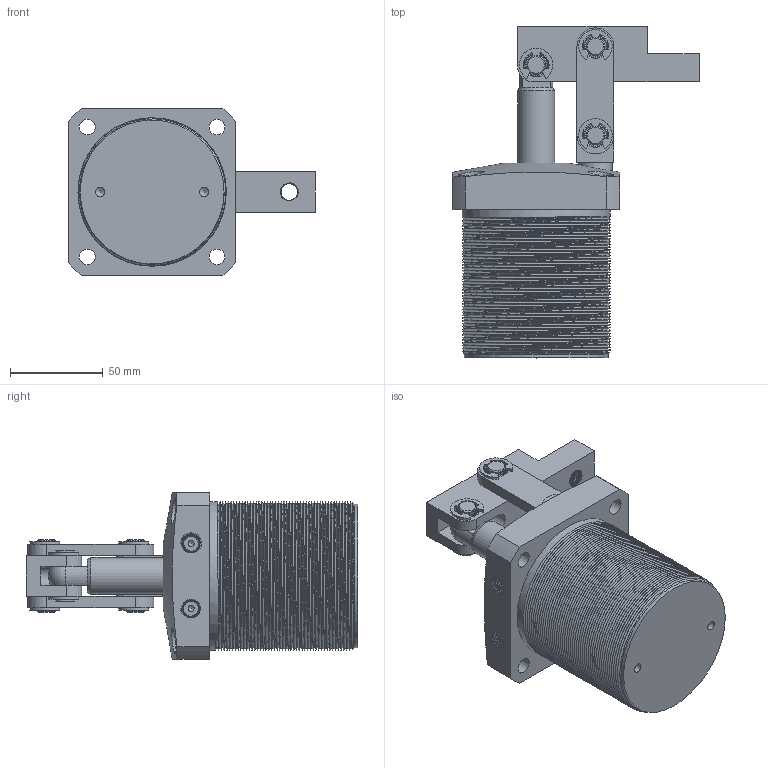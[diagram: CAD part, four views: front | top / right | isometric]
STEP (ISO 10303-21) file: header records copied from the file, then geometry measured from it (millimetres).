
FILE_DESCRIPTION(/* description */ (''),/* implementation_level */ '2;1');
FILE_NAME(/* name */ 'E:\SERWER_ZAPAS\MODELE brakujace\PNEUMATIC\CPLCU(STEP)\cplcu-63_asm\CPLCU-63_ZAMKNIETY.stp',/* time_stamp */ '2019-02-08T14:41:51+01:00',/* author */ ('Admin'),/* organization */ (''),/* preprocessor_version */ 'ST-DEVELOPER v17.2',/* originating_system */ 'Autodesk Inventor 2019',/* authorisation */ '');
FILE_SCHEMA (('AUTOMOTIVE_DESIGN { 1 0 10303 214 3 1 1 }'));
Products named in the file (10): CPLCU-63_ZAMKNIETY; CPLCU-63-07; CPLCU-63-06; CPLCU-63-05; CPLCU-63-01; CPLCU-63-02; CPLCU-63-08; CPLCU-63-03; CPLCU-63-04; CPLCU-50-08
Assembly tree (21 placements, depth 2):
  CPLCU-63_ZAMKNIETY
    CPLCU-63-07
    CPLCU-63-06
    CPLCU-63-05
    CPLCU-63-01
    CPLCU-63-02  x2
    CPLCU-63-08  x6
    CPLCU-63-03
    CPLCU-63-04  x2
    CPLCU-50-08  x6
Bounding box: 132.99 x 179 x 90 mm (x, y, z)
Volume: 537349.3 mm3; surface area: 133077.9 mm2
Topology: 21 solids, 21 shells, 578 faces, 1579 edges, 1070 vertices
Faces by surface type: cylinder 282, plane 145, cone 77, bspline 70, torus 3, sphere 1
Full cylindrical faces by diameter (mm): 3 x6, 3.3 x7, 5 x2, 8.5 x4, 9 x19, 10 x18, 10.25 x8, 12 x23, 14 x4, 18 x2, 20 x2, 50 x1, 53 x1, 58.8 x1, 62.5 x3, 63 x1, 77.6 x1, 80 x48
Entity records: 50711 total; most frequent: CARTESIAN_POINT 41115, ORIENTED_EDGE 2106, DIRECTION 1618, EDGE_CURVE 1053, VERTEX_POINT 717, AXIS2_PLACEMENT_3D 627, EDGE_LOOP 441, B_SPLINE_CURVE_WITH_KNOTS 402
